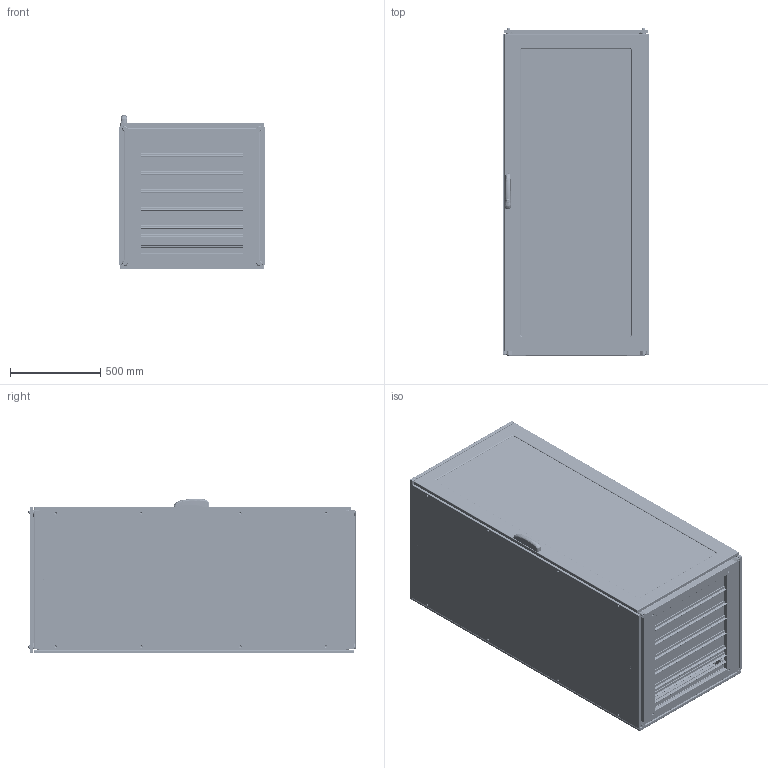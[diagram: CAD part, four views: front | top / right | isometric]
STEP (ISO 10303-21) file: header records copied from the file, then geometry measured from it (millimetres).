
FILE_DESCRIPTION (( 'STEP AP203' ), '1' );
FILE_NAME ('ENUX081808PV.STEP', '2025-05-29T08:39:36', ( '' ), ( '' ), 'SwSTEP 2.0', 'SolidWorks 2022', '' );
FILE_SCHEMA (( 'CONFIG_CONTROL_DESIGN' ));
Products named in the file (13): AR_ENUX_montaggio_porta_singlola_plexi_0800x1800_ANT_DX; AR_ENUX_Fianco_0800x1800_SX; ENUX081808PV; AR_ENUX_Porta_singola_plexi_0800x1800_ANT; AR_ENUX_nuova_maniglia_mesan; AR_ENUX_Retro_singolo_0800x1800; AR_ENUX_Tetto_0800x0800; AR_ENUX_Vite_tetto; AR_ENUX_Struttura_0800x1800x0800; AR_ENUX_Tegolino_0800x0100; AR_ENUX_Plexiglass_porte_0800x1800; AR_ENUX_Fianco_0800x1800_DX; AR_ENUX_Tegolino_0800x0050
Assembly tree (20 placements, depth 3):
  ENUX081808PV
    AR_ENUX_Struttura_0800x1800x0800
    AR_ENUX_Retro_singolo_0800x1800
    AR_ENUX_Fianco_0800x1800_SX
    AR_ENUX_Fianco_0800x1800_DX
    AR_ENUX_Tetto_0800x0800
    AR_ENUX_Vite_tetto  x4
    AR_ENUX_montaggio_porta_singlola_plexi_0800x1800_ANT_DX
      AR_ENUX_Porta_singola_plexi_0800x1800_ANT
      AR_ENUX_Plexiglass_porte_0800x1800
      AR_ENUX_nuova_maniglia_mesan
    AR_ENUX_Tegolino_0800x0100  x5
    AR_ENUX_Tegolino_0800x0050  x2
Bounding box: 812 x 1815.1 x 857 mm (x, y, z)
Volume: 16243991.3 mm3; surface area: 21355403.3 mm2
Topology: 19 solids, 19 shells, 9295 faces, 26168 edges, 16822 vertices
Faces by surface type: plane 5100, cylinder 3243, bspline 365, torus 291, cone 228, sphere 68
Entity records: 334515 total; most frequent: CARTESIAN_POINT 91728, ORIENTED_EDGE 50314, DIRECTION 48058, EDGE_CURVE 25157, LINE 17304, VECTOR 17304, VERTEX_POINT 16344, AXIS2_PLACEMENT_3D 15377
